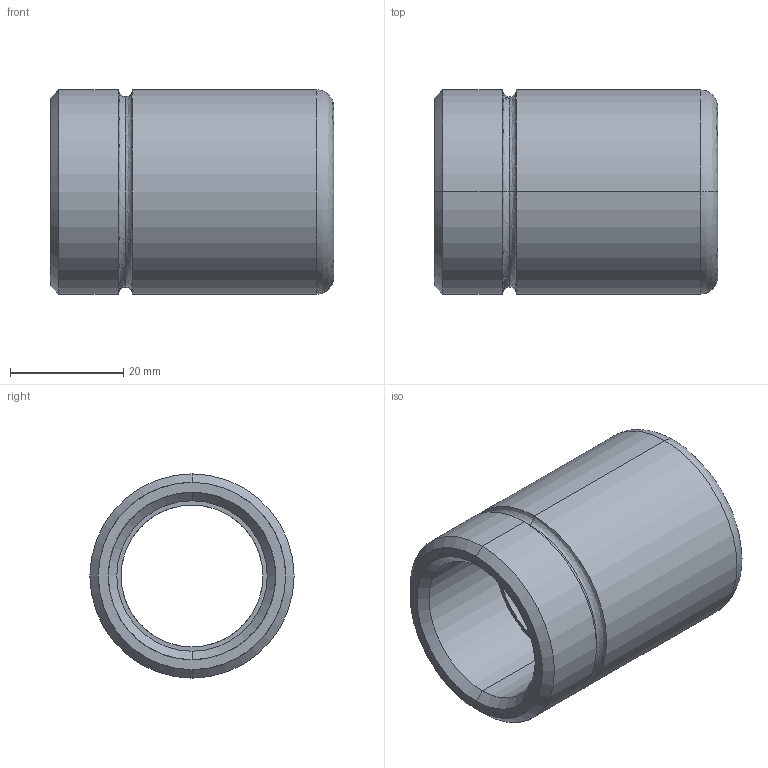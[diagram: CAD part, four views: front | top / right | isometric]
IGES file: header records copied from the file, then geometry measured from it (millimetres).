
Start section: START RECORD GO HERE.
Global section: file name: 347-25 x 50.igs; native system: DASSAULT SYSTEMES CATIA V5 R20 - www.3ds.com; preprocessor: CATIA Version 5 Release 20 ; author: Utente; organization: NB04-ASUS; date: 20210101.110123; units: millimetre
Bounding box: 50 x 36 x 36 mm (x, y, z)
Surface area: 10669.8 mm2 (no closed solid volume)
Topology: 0 solids, 0 shells, 29 faces, 172 edges, 172 vertices
Faces by surface type: revolution 26, plane 3
